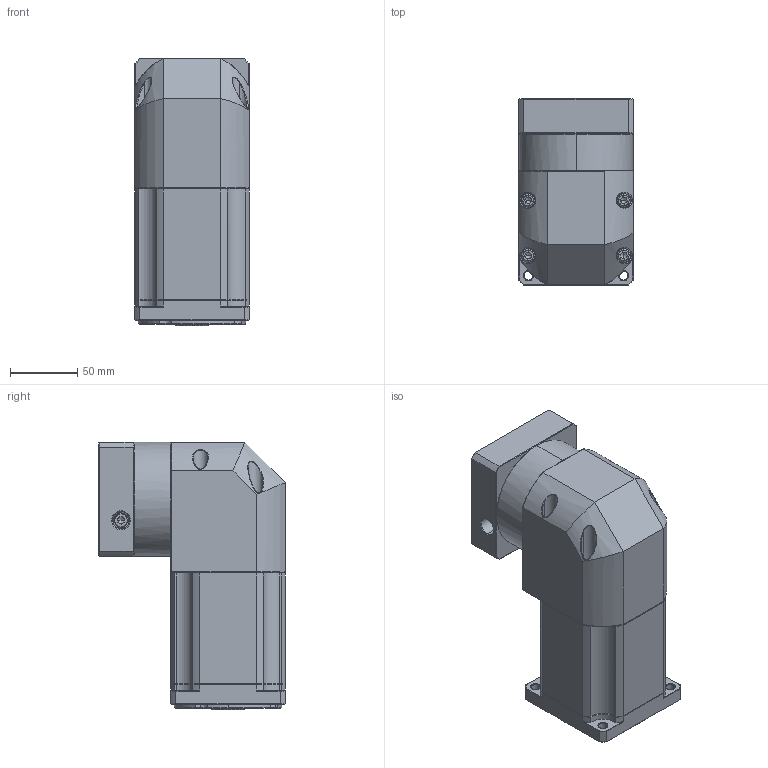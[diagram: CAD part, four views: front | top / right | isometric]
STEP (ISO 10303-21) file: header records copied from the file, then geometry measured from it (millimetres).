
FILE_DESCRIPTION (( 'STEP AP214' ), '1' );
FILE_NAME ('ZBR090-K15-L3-P2-19-80-100-M6.step', '2023-08-19T02:12:09', ( '' ), ( '' ), 'SwSTEP 2.0', 'SolidWorks 2016', '' );
FILE_SCHEMA (( 'AUTOMOTIVE_DESIGN' ));
Length unit declared in the file: millimetre
Products named in the file (1): ZBR090-K15-L3-P2-19-80-100-M6
Bounding box: 85 x 138.6 x 199 mm (x, y, z)
Volume: 1476248.9 mm3; surface area: 143758.1 mm2
Topology: 5 solids, 5 shells, 2347 faces, 6132 edges, 3878 vertices
Faces by surface type: plane 1148, bspline 414, cylinder 411, cone 350, torus 24
Entity records: 123833 total; most frequent: CARTESIAN_POINT 43747, ORIENTED_EDGE 12192, DIRECTION 9752, EDGE_CURVE 6096, VECTOR 3904, LINE 3904, VERTEX_POINT 3878, AXIS2_PLACEMENT_3D 2924
